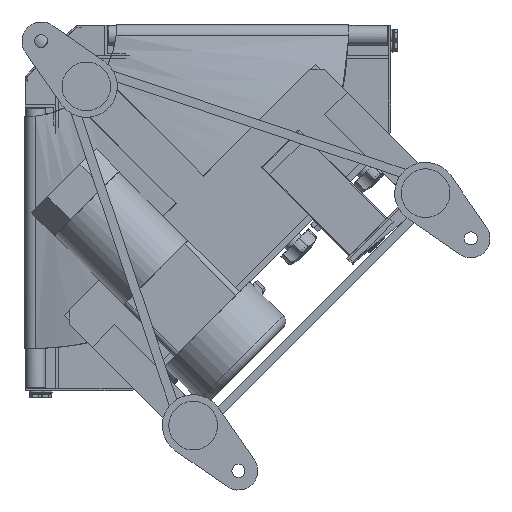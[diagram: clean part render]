
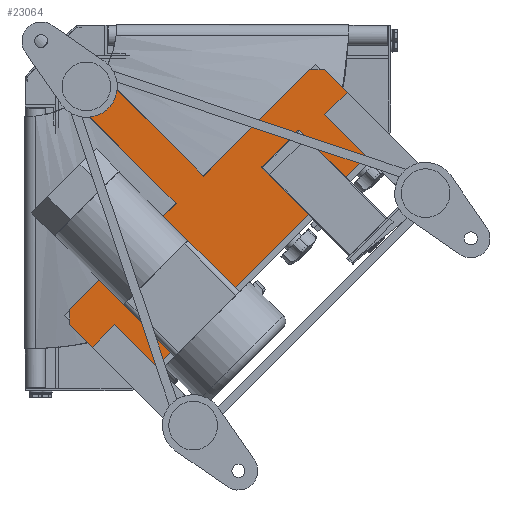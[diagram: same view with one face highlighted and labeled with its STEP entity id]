
A CAD part, front view. The second image highlights one B-rep face of the part: STEP entity #23064.
In plain terms, the highlighted planar face has unit normal (0, -1, 0).
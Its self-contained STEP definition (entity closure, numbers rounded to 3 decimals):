
#139 = CARTESIAN_POINT ( 'NONE',  ( 43.487, -167.5, -280.368 ) ) ;
#363 = EDGE_CURVE ( 'NONE', #4064, #7528, #30418, .T. ) ;
#393 = DIRECTION ( 'NONE',  ( 0.707, 0., 0.707 ) ) ;
#480 = CARTESIAN_POINT ( 'NONE',  ( 12.728, -167.5, -39.598 ) ) ;
#636 = ORIENTED_EDGE ( 'NONE', *, *, #31049, .F. ) ;
#790 = CARTESIAN_POINT ( 'NONE',  ( 107.127, -167.5, -358.15 ) ) ;
#817 = DIRECTION ( 'NONE',  ( 0.707, 0., -0.707 ) ) ;
#1081 = CARTESIAN_POINT ( 'NONE',  ( 175.362, -167.5, -148.492 ) ) ;
#1088 = VERTEX_POINT ( 'NONE', #480 ) ;
#1923 = VECTOR ( 'NONE', #26488, 1000. ) ;
#2415 = CARTESIAN_POINT ( 'NONE',  ( 148.492, -167.5, -175.362 ) ) ;
#2538 = VERTEX_POINT ( 'NONE', #29590 ) ;
#2708 = FACE_OUTER_BOUND ( 'NONE', #20517, .T. ) ;
#3136 = ORIENTED_EDGE ( 'NONE', *, *, #17637, .T. ) ;
#3932 = ORIENTED_EDGE ( 'NONE', *, *, #8978, .T. ) ;
#4064 = VERTEX_POINT ( 'NONE', #25120 ) ;
#5692 = VERTEX_POINT ( 'NONE', #17469 ) ;
#5917 = ORIENTED_EDGE ( 'NONE', *, *, #363, .T. ) ;
#7059 = EDGE_CURVE ( 'NONE', #17525, #1088, #18378, .T. ) ;
#7142 = VECTOR ( 'NONE', #393, 1000. ) ;
#7528 = VERTEX_POINT ( 'NONE', #26361 ) ;
#7626 = DIRECTION ( 'NONE',  ( 0.707, 0., -0.707 ) ) ;
#8291 = CARTESIAN_POINT ( 'NONE',  ( 43.487, -167.5, -294.51 ) ) ;
#8352 = DIRECTION ( 'NONE',  ( 0., -1., 0. ) ) ;
#8693 = ORIENTED_EDGE ( 'NONE', *, *, #14789, .T. ) ;
#8801 = DIRECTION ( 'NONE',  ( 0., 0., -1. ) ) ;
#8978 = EDGE_CURVE ( 'NONE', #2538, #24441, #18663, .T. ) ;
#9094 = VECTOR ( 'NONE', #33017, 1000. ) ;
#9545 = CARTESIAN_POINT ( 'NONE',  ( 280.368, -167.5, -43.487 ) ) ;
#10077 = CARTESIAN_POINT ( 'NONE',  ( 294.51, -167.5, -43.487 ) ) ;
#10381 = CARTESIAN_POINT ( 'NONE',  ( 12.728, -167.5, -39.598 ) ) ;
#10551 = VERTEX_POINT ( 'NONE', #1081 ) ;
#10915 = CARTESIAN_POINT ( 'NONE',  ( 0., -167.5, 0. ) ) ;
#12113 = AXIS2_PLACEMENT_3D ( 'NONE', #10915, #8352, #8801 ) ;
#12591 = LINE ( 'NONE', #20699, #18648 ) ;
#13173 = DIRECTION ( 'NONE',  ( -0.707, 0., -0.707 ) ) ;
#13446 = VERTEX_POINT ( 'NONE', #25944 ) ;
#13993 = ORIENTED_EDGE ( 'NONE', *, *, #7059, .F. ) ;
#14789 = EDGE_CURVE ( 'NONE', #17525, #5692, #12591, .T. ) ;
#16112 = ORIENTED_EDGE ( 'NONE', *, *, #30705, .T. ) ;
#17040 = ORIENTED_EDGE ( 'NONE', *, *, #17833, .T. ) ;
#17334 = ORIENTED_EDGE ( 'NONE', *, *, #23622, .T. ) ;
#17469 = CARTESIAN_POINT ( 'NONE',  ( 43.487, -167.5, -280.368 ) ) ;
#17525 = VERTEX_POINT ( 'NONE', #2415 ) ;
#17637 = EDGE_CURVE ( 'NONE', #30972, #10551, #32986, .T. ) ;
#17833 = EDGE_CURVE ( 'NONE', #24441, #4064, #27703, .T. ) ;
#18378 = LINE ( 'NONE', #25654, #9094 ) ;
#18648 = VECTOR ( 'NONE', #13173, 1000. ) ;
#18663 = LINE ( 'NONE', #23835, #19868 ) ;
#18783 = LINE ( 'NONE', #10381, #7142 ) ;
#19158 = VECTOR ( 'NONE', #21886, 1000. ) ;
#19291 = VECTOR ( 'NONE', #28573, 1000. ) ;
#19542 = CARTESIAN_POINT ( 'NONE',  ( 280.368, -167.5, -43.487 ) ) ;
#19868 = VECTOR ( 'NONE', #817, 1000. ) ;
#20517 = EDGE_LOOP ( 'NONE', ( #13993, #8693, #16112, #3932, #17040, #5917, #17334, #3136, #28676, #636 ) ) ;
#20699 = CARTESIAN_POINT ( 'NONE',  ( 43.487, -167.5, -280.368 ) ) ;
#21127 = VECTOR ( 'NONE', #28298, 1000. ) ;
#21886 = DIRECTION ( 'NONE',  ( -1., 0., 0. ) ) ;
#23064 = ADVANCED_FACE ( 'NONE', ( #2708 ), #24174, .T. ) ;
#23320 = CARTESIAN_POINT ( 'NONE',  ( 39.598, -167.5, -12.728 ) ) ;
#23622 = EDGE_CURVE ( 'NONE', #7528, #30972, #32030, .T. ) ;
#23835 = CARTESIAN_POINT ( 'NONE',  ( 43.487, -167.5, -294.51 ) ) ;
#24038 = DIRECTION ( 'NONE',  ( 0.707, 0., 0.707 ) ) ;
#24174 = PLANE ( 'NONE',  #12113 ) ;
#24441 = VERTEX_POINT ( 'NONE', #27723 ) ;
#25120 = CARTESIAN_POINT ( 'NONE',  ( 358.15, -167.5, -107.127 ) ) ;
#25654 = CARTESIAN_POINT ( 'NONE',  ( 12.728, -167.5, -39.598 ) ) ;
#25835 = VECTOR ( 'NONE', #7626, 1000. ) ;
#25862 = EDGE_CURVE ( 'NONE', #13446, #10551, #32729, .T. ) ;
#25944 = CARTESIAN_POINT ( 'NONE',  ( 39.598, -167.5, -12.728 ) ) ;
#26361 = CARTESIAN_POINT ( 'NONE',  ( 294.51, -167.5, -43.487 ) ) ;
#26488 = DIRECTION ( 'NONE',  ( 0., 0., -1. ) ) ;
#27703 = LINE ( 'NONE', #790, #32958 ) ;
#27723 = CARTESIAN_POINT ( 'NONE',  ( 107.127, -167.5, -358.15 ) ) ;
#28298 = DIRECTION ( 'NONE',  ( -0.707, 0., 0.707 ) ) ;
#28573 = DIRECTION ( 'NONE',  ( -0.707, 0., -0.707 ) ) ;
#28676 = ORIENTED_EDGE ( 'NONE', *, *, #25862, .F. ) ;
#29590 = CARTESIAN_POINT ( 'NONE',  ( 43.487, -167.5, -294.51 ) ) ;
#30418 = LINE ( 'NONE', #10077, #21127 ) ;
#30705 = EDGE_CURVE ( 'NONE', #5692, #2538, #31690, .T. ) ;
#30972 = VERTEX_POINT ( 'NONE', #19542 ) ;
#31049 = EDGE_CURVE ( 'NONE', #1088, #13446, #18783, .T. ) ;
#31690 = LINE ( 'NONE', #8291, #1923 ) ;
#32030 = LINE ( 'NONE', #9545, #19158 ) ;
#32729 = LINE ( 'NONE', #23320, #25835 ) ;
#32958 = VECTOR ( 'NONE', #24038, 1000. ) ;
#32986 = LINE ( 'NONE', #139, #19291 ) ;
#33017 = DIRECTION ( 'NONE',  ( -0.707, 0., 0.707 ) ) ;
